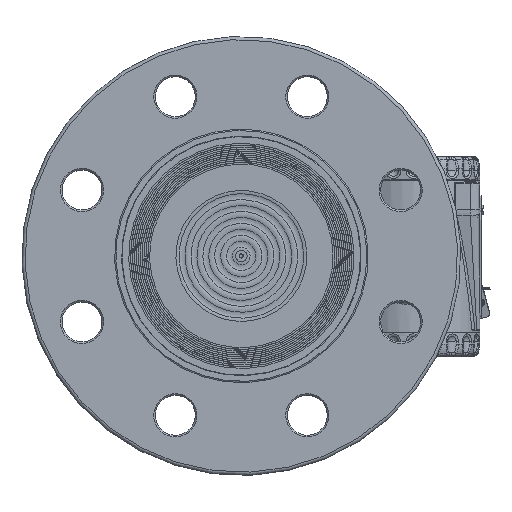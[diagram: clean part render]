
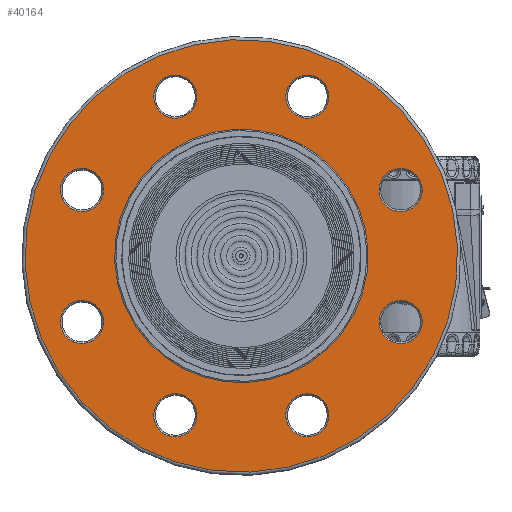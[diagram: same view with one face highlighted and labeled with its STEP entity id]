
A CAD part, top view. The second image highlights one B-rep face of the part: STEP entity #40164.
In plain terms, the highlighted planar face has unit normal (0, 0, 1) as drawn and (-1, 0, 0) by its records, which use the part's own axes.
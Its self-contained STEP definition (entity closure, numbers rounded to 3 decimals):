
#669=FACE_BOUND('',#6639,.T.);
#670=FACE_BOUND('',#6640,.T.);
#671=FACE_BOUND('',#6641,.T.);
#672=FACE_BOUND('',#6642,.T.);
#673=FACE_BOUND('',#6643,.T.);
#674=FACE_BOUND('',#6644,.T.);
#675=FACE_BOUND('',#6645,.T.);
#676=FACE_BOUND('',#6646,.T.);
#677=FACE_BOUND('',#6647,.T.);
#2588=PLANE('',#44620);
#3958=FACE_OUTER_BOUND('',#6638,.T.);
#6638=EDGE_LOOP('',(#30672,#30673));
#6639=EDGE_LOOP('',(#30674));
#6640=EDGE_LOOP('',(#30675));
#6641=EDGE_LOOP('',(#30676));
#6642=EDGE_LOOP('',(#30677));
#6643=EDGE_LOOP('',(#30678,#30679));
#6644=EDGE_LOOP('',(#30680));
#6645=EDGE_LOOP('',(#30681));
#6646=EDGE_LOOP('',(#30682));
#6647=EDGE_LOOP('',(#30683));
#13262=CIRCLE('',#44619,13.5);
#13263=CIRCLE('',#44621,135.5);
#13264=CIRCLE('',#44622,135.5);
#13265=CIRCLE('',#44623,13.5);
#13266=CIRCLE('',#44624,13.5);
#13267=CIRCLE('',#44625,13.5);
#13268=CIRCLE('',#44626,13.5);
#13269=CIRCLE('',#44627,79.4);
#13270=CIRCLE('',#44628,79.4);
#13271=CIRCLE('',#44629,13.5);
#13272=CIRCLE('',#44630,13.5);
#13273=CIRCLE('',#44631,13.5);
#17605=VERTEX_POINT('',#70997);
#17606=VERTEX_POINT('',#71001);
#17607=VERTEX_POINT('',#71002);
#17608=VERTEX_POINT('',#71005);
#17609=VERTEX_POINT('',#71007);
#17610=VERTEX_POINT('',#71009);
#17611=VERTEX_POINT('',#71011);
#17612=VERTEX_POINT('',#71013);
#17613=VERTEX_POINT('',#71014);
#17614=VERTEX_POINT('',#71017);
#17615=VERTEX_POINT('',#71019);
#17616=VERTEX_POINT('',#71021);
#22240=EDGE_CURVE('',#17605,#17605,#13262,.T.);
#22242=EDGE_CURVE('',#17606,#17607,#13263,.T.);
#22243=EDGE_CURVE('',#17607,#17606,#13264,.T.);
#22244=EDGE_CURVE('',#17608,#17608,#13265,.T.);
#22245=EDGE_CURVE('',#17609,#17609,#13266,.T.);
#22246=EDGE_CURVE('',#17610,#17610,#13267,.T.);
#22247=EDGE_CURVE('',#17611,#17611,#13268,.T.);
#22248=EDGE_CURVE('',#17612,#17613,#13269,.T.);
#22249=EDGE_CURVE('',#17613,#17612,#13270,.T.);
#22250=EDGE_CURVE('',#17614,#17614,#13271,.T.);
#22251=EDGE_CURVE('',#17615,#17615,#13272,.T.);
#22252=EDGE_CURVE('',#17616,#17616,#13273,.T.);
#30672=ORIENTED_EDGE('',*,*,#22242,.F.);
#30673=ORIENTED_EDGE('',*,*,#22243,.F.);
#30674=ORIENTED_EDGE('',*,*,#22244,.F.);
#30675=ORIENTED_EDGE('',*,*,#22245,.F.);
#30676=ORIENTED_EDGE('',*,*,#22246,.F.);
#30677=ORIENTED_EDGE('',*,*,#22247,.F.);
#30678=ORIENTED_EDGE('',*,*,#22248,.T.);
#30679=ORIENTED_EDGE('',*,*,#22249,.T.);
#30680=ORIENTED_EDGE('',*,*,#22250,.F.);
#30681=ORIENTED_EDGE('',*,*,#22251,.F.);
#30682=ORIENTED_EDGE('',*,*,#22252,.F.);
#30683=ORIENTED_EDGE('',*,*,#22240,.F.);
#40164=ADVANCED_FACE('',(#3958,#669,#670,#671,#672,#673,#674,#675,#676,
#677),#2588,.T.);
#44619=AXIS2_PLACEMENT_3D('',#70998,#52546,#52547);
#44620=AXIS2_PLACEMENT_3D('',#71000,#52549,#52550);
#44621=AXIS2_PLACEMENT_3D('',#71003,#52551,#52552);
#44622=AXIS2_PLACEMENT_3D('',#71004,#52553,#52554);
#44623=AXIS2_PLACEMENT_3D('',#71006,#52555,#52556);
#44624=AXIS2_PLACEMENT_3D('',#71008,#52557,#52558);
#44625=AXIS2_PLACEMENT_3D('',#71010,#52559,#52560);
#44626=AXIS2_PLACEMENT_3D('',#71012,#52561,#52562);
#44627=AXIS2_PLACEMENT_3D('',#71015,#52563,#52564);
#44628=AXIS2_PLACEMENT_3D('',#71016,#52565,#52566);
#44629=AXIS2_PLACEMENT_3D('',#71018,#52567,#52568);
#44630=AXIS2_PLACEMENT_3D('',#71020,#52569,#52570);
#44631=AXIS2_PLACEMENT_3D('',#71022,#52571,#52572);
#52546=DIRECTION('center_axis',(-1.,0.,0.));
#52547=DIRECTION('ref_axis',(0.,-0.707,-0.707));
#52549=DIRECTION('center_axis',(-1.,0.,0.));
#52550=DIRECTION('ref_axis',(0.,0.,1.));
#52551=DIRECTION('center_axis',(1.,0.,0.));
#52552=DIRECTION('ref_axis',(0.,1.,0.));
#52553=DIRECTION('center_axis',(1.,0.,0.));
#52554=DIRECTION('ref_axis',(0.,1.,0.));
#52555=DIRECTION('center_axis',(-1.,0.,0.));
#52556=DIRECTION('ref_axis',(0.,-1.,0.));
#52557=DIRECTION('center_axis',(-1.,0.,0.));
#52558=DIRECTION('ref_axis',(0.,0.,1.));
#52559=DIRECTION('center_axis',(-1.,0.,0.));
#52560=DIRECTION('ref_axis',(0.,1.,0.));
#52561=DIRECTION('center_axis',(-1.,0.,0.));
#52562=DIRECTION('ref_axis',(0.,0.,-1.));
#52563=DIRECTION('center_axis',(1.,0.,0.));
#52564=DIRECTION('ref_axis',(0.,1.,0.));
#52565=DIRECTION('center_axis',(1.,0.,0.));
#52566=DIRECTION('ref_axis',(0.,1.,0.));
#52567=DIRECTION('center_axis',(-1.,0.,0.));
#52568=DIRECTION('ref_axis',(0.,0.707,-0.707));
#52569=DIRECTION('center_axis',(-1.,0.,0.));
#52570=DIRECTION('ref_axis',(0.,0.707,0.707));
#52571=DIRECTION('center_axis',(-1.,0.,0.));
#52572=DIRECTION('ref_axis',(0.,-0.707,0.707));
#70997=CARTESIAN_POINT('',(7.,85.913,85.913));
#70998=CARTESIAN_POINT('Origin',(7.,76.368,76.368));
#71000=CARTESIAN_POINT('Origin',(7.,107.45,0.));
#71001=CARTESIAN_POINT('',(7.,135.5,0.));
#71002=CARTESIAN_POINT('',(7.,0.,135.5));
#71003=CARTESIAN_POINT('Origin',(7.,0.,0.));
#71004=CARTESIAN_POINT('Origin',(7.,0.,0.));
#71005=CARTESIAN_POINT('',(7.,121.5,0.));
#71006=CARTESIAN_POINT('Origin',(7.,108.,0.));
#71007=CARTESIAN_POINT('',(7.,0.,-121.5));
#71008=CARTESIAN_POINT('Origin',(7.,0.,-108.));
#71009=CARTESIAN_POINT('',(7.,-121.5,0.));
#71010=CARTESIAN_POINT('Origin',(7.,-108.,0.));
#71011=CARTESIAN_POINT('',(7.,0.,121.5));
#71012=CARTESIAN_POINT('Origin',(7.,0.,108.));
#71013=CARTESIAN_POINT('',(7.,79.4,0.));
#71014=CARTESIAN_POINT('',(7.,0.,79.4));
#71015=CARTESIAN_POINT('Origin',(7.,0.,0.));
#71016=CARTESIAN_POINT('Origin',(7.,0.,0.));
#71017=CARTESIAN_POINT('',(7.,-85.913,85.913));
#71018=CARTESIAN_POINT('Origin',(7.,-76.368,76.368));
#71019=CARTESIAN_POINT('',(7.,-85.913,-85.913));
#71020=CARTESIAN_POINT('Origin',(7.,-76.368,-76.368));
#71021=CARTESIAN_POINT('',(7.,85.913,-85.913));
#71022=CARTESIAN_POINT('Origin',(7.,76.368,-76.368));
